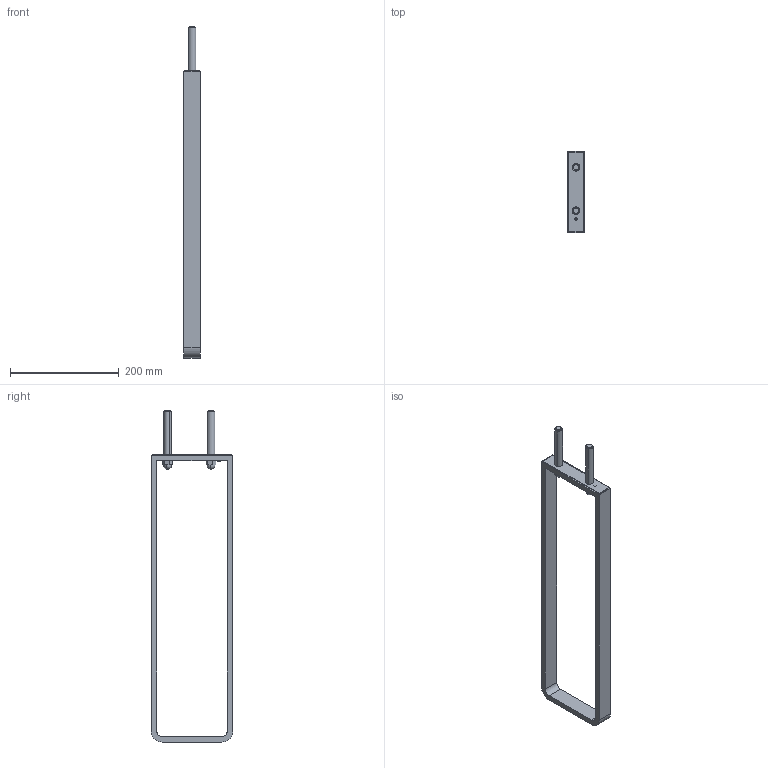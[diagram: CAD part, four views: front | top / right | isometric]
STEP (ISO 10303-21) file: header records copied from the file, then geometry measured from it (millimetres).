
FILE_DESCRIPTION (( 'STEP AP203' ), '1' );
FILE_NAME ('SIZ ST.STEP', '2019-02-01T10:50:16', ( '' ), ( '' ), 'SwSTEP 2.0', 'SolidWorks 2019', '' );
FILE_SCHEMA (( 'CONFIG_CONTROL_DESIGN' ));
Length unit declared in the file: millimetre
Products named in the file (7): barra filettata; STAFFA PORTASCIUGAMANO OK; bullone cieco; CONTROPIASTRA STAFFA portasciugamano; tassello x t bond; GRANO; SIZ ST
Assembly tree (9 placements, depth 2):
  SIZ ST
    STAFFA PORTASCIUGAMANO OK
    CONTROPIASTRA STAFFA portasciugamano
    barra filettata  x2
    bullone cieco  x2
    GRANO
    tassello x t bond  x2
Bounding box: 30 x 150 x 611 mm (x, y, z)
Volume: 425118.2 mm3; surface area: 134429.6 mm2
Topology: 9 solids, 9 shells, 95 faces, 216 edges, 142 vertices
Faces by surface type: plane 53, cylinder 36, sphere 4, cone 2
Entity records: 2803 total; most frequent: DIRECTION 374, CARTESIAN_POINT 340, ORIENTED_EDGE 312, EDGE_CURVE 156, AXIS2_PLACEMENT_3D 137, VERTEX_POINT 103, LINE 100, VECTOR 100
